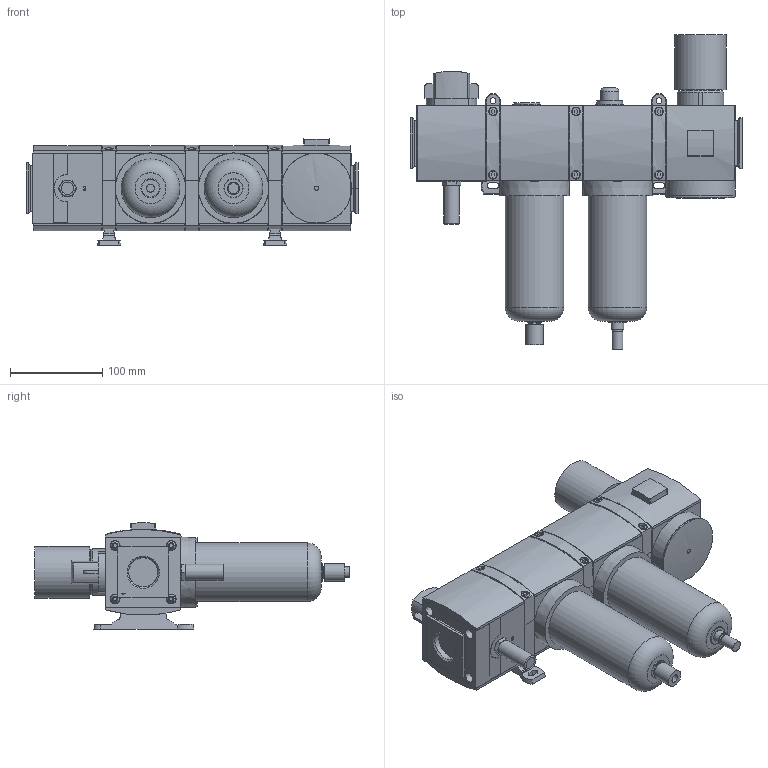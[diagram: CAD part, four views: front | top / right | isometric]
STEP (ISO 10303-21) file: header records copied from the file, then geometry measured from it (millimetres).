
FILE_DESCRIPTION( ( 'STEP AP214' ), '1' );
FILE_NAME( 'p:/temp/worker_231/temp/exporttempdir_5496_220_41sAR/format_0/07502020-200225_gen_30338.stp', '2020-02-07T19:50:28', ( '' ), ( '' ), ' ', 'PARTsolutions', ' ' );
FILE_SCHEMA( ( 'AUTOMOTIVE_DESIGN { 1 0 10303 214 1 1 1 1 }' ) );
Length unit declared in the file: millimetre
Products named in the file (20): 07502020-200225_gen_30338; _440562-004-006-F(L); _439489-001-0; _437742 KNOB-100_653; _653-M3MN; _440561-004-006-F(L); _G653ASLA0B00A00_LS; _439498-012-F(L); _439851-002; _507439-006-P; _653-440512-002; _G653ASLA0A00A00_LS; _439851-001; _653-501862-002; _439488-012-F(L); _439489-002-H; _653-438047-009; _503493-001; _510722-001-STANDARD_653; _503402-001
Assembly tree (28 placements, depth 2):
  07502020-200225_gen_30338
    _440562-004-006-F(L)
    _439489-001-0  x7
    _437742 KNOB-100_653
    _653-M3MN
    _440561-004-006-F(L)
    _G653ASLA0B00A00_LS  x2
    _439498-012-F(L)  x2
    _439851-002
    _507439-006-P  x2
    _653-440512-002
    _G653ASLA0A00A00_LS
    _439851-001
    _653-501862-002
    _439488-012-F(L)
    _439489-002-H
    _653-438047-009
    _503493-001
    _510722-001-STANDARD_653
    _503402-001
Bounding box: 360 x 340.9 x 115.36 mm (x, y, z)
Volume: 3844397.1 mm3; surface area: 515859.2 mm2
Topology: 28 solids, 28 shells, 1339 faces, 3253 edges, 2092 vertices
Faces by surface type: plane 935, cylinder 261, cone 103, torus 33, sphere 6, bspline 1
Full cylindrical faces by diameter (mm): 1.7 x2, 2.8 x2, 3 x2, 5.85 x4, 6.3 x4, 6.5 x2, 8.5 x6, 8.6 x1, 10 x4, 10.4 x1, 10.5 x1, 10.8 x4, 11.671 x1, 12 x4, 12.309 x1, 12.985 x1, 13.5 x1, 15.1 x1, 16.105 x1, 17.3 x1, 19 x1, 19.847 x1, 20 x1, 21.6 x1, 22.7 x2, 28 x1, 29.5 x1, 30 x2, 33.5 x2, 43 x1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
Entity records: 40632 total; most frequent: CARTESIAN_POINT 6167, DIRECTION 5336, ORIENTED_EDGE 4962, EDGE_CURVE 2481, AXIS2_PLACEMENT_3D 1817, LINE 1702, VECTOR 1702, VERTEX_POINT 1677
